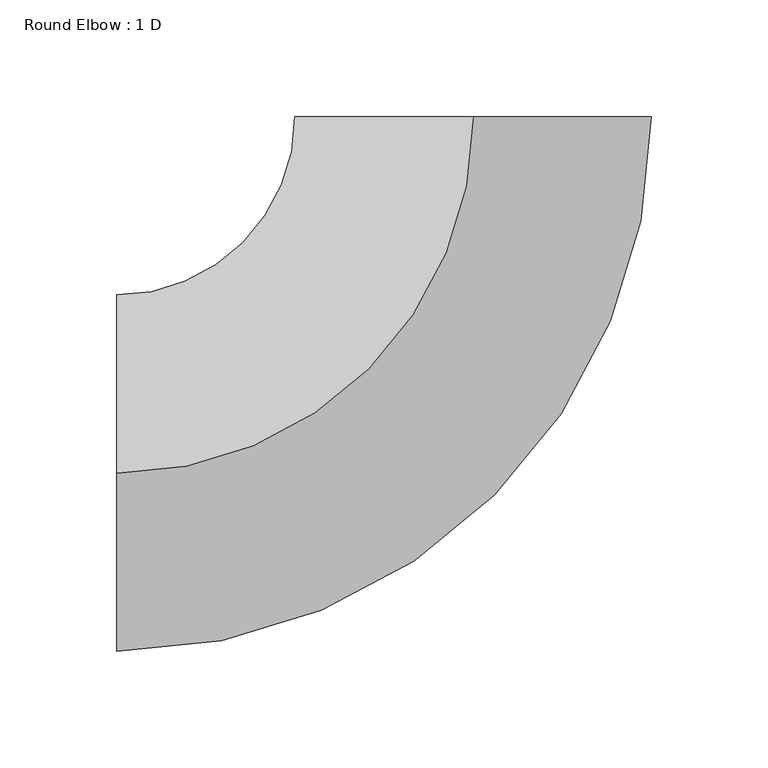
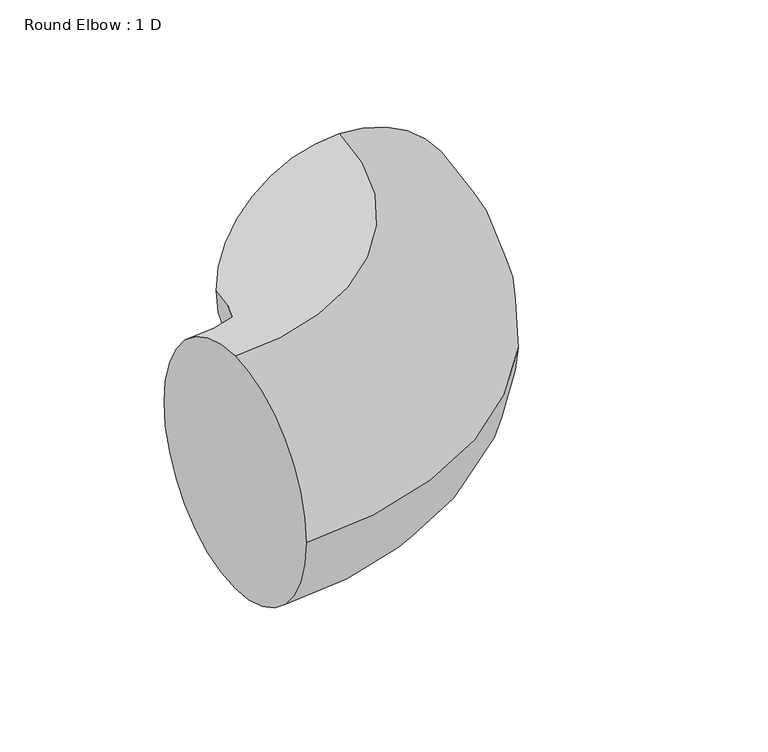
"""IFC4 building model written with IfcOpenShell, lengths in millimetres: duct fitting geometry, Round Elbow : 1 D."""

from ifc_helpers import new_model, si_unit, point, frame, origin, place, context, project, spatial, circle_curve, ellipse_curve, trimmed, source, transform, mapped, element, save
from ifc_brep_helpers import plane_surface, revolved_surface, advanced_brep


def round_elbow_1_d_8429d56c(model_context):
    return source(origin(), model_context, "Body", "AdvancedBrep", [
        advanced_brep(
        [(-152.4001896, 0.0, 76.2), (-152.4001896, 76.2, 0.0), (-152.4001896, 0.0, -76.2), (-152.4001896, -76.2, 0.0), (-0.0001896, 152.4001896, 76.2), (76.1998104, 152.4002844, 0.0), (-0.0001896, 152.4001896, -76.2), (-76.2001896, 152.4000948, 0.0)],
        [
            (0, 1, circle_curve(frame((-152.4001896, 0.0, 0.0), z_axis=(-1.0, 0.0, 0.0), x_axis=(0.0, 1.0, 0.0)), 76.2)),
            (1, 2, circle_curve(frame((-152.4001896, 0.0, 0.0), z_axis=(-1.0, 0.0, 0.0), x_axis=(0.0, 1.0, 0.0)), 76.2)),
            (2, 3, circle_curve(frame((-152.4001896, 0.0, 0.0), z_axis=(-1.0, 0.0, 0.0), x_axis=(0.0, 1.0, 0.0)), 76.2)),
            (3, 0, circle_curve(frame((-152.4001896, 0.0, 0.0), z_axis=(-1.0, 0.0, 0.0), x_axis=(0.0, 1.0, 0.0)), 76.2)),
            (4, 5, circle_curve(frame((-0.0001896, 152.4001896, 0.0), z_axis=(-1.2442226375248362e-06, 0.999999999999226, 0.0), x_axis=(-0.999999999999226, -1.2442226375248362e-06, 0.0)), 76.2)),
            (5, 6, circle_curve(frame((-0.0001896, 152.4001896, 0.0), z_axis=(-1.2442226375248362e-06, 0.999999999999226, 0.0), x_axis=(-0.999999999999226, -1.2442226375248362e-06, 0.0)), 76.2)),
            (6, 7, circle_curve(frame((-0.0001896, 152.4001896, 0.0), z_axis=(-1.2442226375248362e-06, 0.999999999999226, 0.0), x_axis=(-0.999999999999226, -1.2442226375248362e-06, 0.0)), 76.2)),
            (7, 4, circle_curve(frame((-0.0001896, 152.4001896, 0.0), z_axis=(-1.2442226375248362e-06, 0.999999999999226, 0.0), x_axis=(-0.999999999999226, -1.2442226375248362e-06, 0.0)), 76.2)),
            (7, 1, circle_curve(frame((-152.4001896, 152.4, 0.0), z_axis=(0.0, 0.0, -1.0), x_axis=(0.0, -1.0, 0.0)), 76.2)),
            (0, 4, circle_curve(frame((-152.4001896, 152.4, 76.2), z_axis=(0.0, 0.0, 1.0), x_axis=(0.0, -1.0, 0.0)), 152.4)),
            (6, 2, circle_curve(frame((-152.4001896, 152.4, -76.2), z_axis=(0.0, 0.0, -1.0), x_axis=(0.0, -1.0, 0.0)), 152.4)),
            (5, 3, circle_curve(frame((-152.4001896, 152.4, 0.0), z_axis=(0.0, 0.0, -1.0), x_axis=(0.0, -1.0, 0.0)), 228.6)),
        ],
        [
            plane_surface(frame((-152.4001896, 0.0, 0.0), z_axis=(-1.0, 0.0, 0.0), x_axis=(0.0, 0.0, 1.0))),
            plane_surface(frame((-0.0001896, 152.4001896, 0.0), z_axis=(-1.2442226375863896e-06, 0.999999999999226, 0.0), x_axis=(0.0, 0.0, 1.0))),
            revolved_surface(trimmed(ellipse_curve(frame((-152.4001896, 0.0, 0.0), z_axis=(-1.0, 0.0, 0.0), x_axis=(0.0, 1.0, 0.0)), 76.2, 76.2), [point((-152.4001896, 0.0, 76.2))], [point((-152.4001896, 76.2, 0.0))], True, "CARTESIAN"), (-152.4001896, 152.4, 0.0), (0.0, 0.0, 1.0)),
            revolved_surface(trimmed(ellipse_curve(frame((-152.4001896, 0.0, 0.0), z_axis=(-1.0, 0.0, 0.0), x_axis=(0.0, 1.0, 0.0)), 76.2, 76.2), [point((-152.4001896, 76.2, 0.0))], [point((-152.4001896, 0.0, -76.2))], True, "CARTESIAN"), (-152.4001896, 152.4, 0.0), (0.0, 0.0, 1.0)),
            revolved_surface(trimmed(ellipse_curve(frame((-152.4001896, 0.0, 0.0), z_axis=(-1.0, 0.0, 0.0), x_axis=(0.0, 1.0, 0.0)), 76.2, 76.2), [point((-152.4001896, 0.0, -76.2))], [point((-152.4001896, -76.2, 0.0))], True, "CARTESIAN"), (-152.4001896, 152.4, 0.0), (0.0, 0.0, 1.0)),
            revolved_surface(trimmed(ellipse_curve(frame((-152.4001896, 0.0, 0.0), z_axis=(-1.0, 0.0, 0.0), x_axis=(0.0, 1.0, 0.0)), 76.2, 76.2), [point((-152.4001896, -76.2, 0.0))], [point((-152.4001896, 0.0, 76.2))], True, "CARTESIAN"), (-152.4001896, 152.4, 0.0), (0.0, 0.0, 1.0)),
        ],
        [
            (0, [[1, 2, 3, 4]]),
            (1, [[5, 6, 7, 8]]),
            (2, [[9, -1, 10, -8]]),
            (3, [[11, -2, -9, -7]]),
            (4, [[12, -3, -11, -6]]),
            (5, [[-10, -4, -12, -5]]),
        ],
    ),
    ])


if __name__ == "__main__":
    model = new_model("IFC4")
    model_context = context("Model", 3, world=origin())
    ifc_project = project(units=[si_unit("LENGTHUNIT", "METRE", prefix="MILLI")], contexts=[model_context])
    site = spatial("IfcSite", under=ifc_project)
    building = spatial("IfcBuilding", under=site)
    placement = place(None, origin())
    round_elbow_1_d_shape = round_elbow_1_d_8429d56c(model_context)
    element("IfcDuctFitting", 1, ObjectType="Round Elbow : 1 D", at=placement, inside=building, context=model_context, shape_type="MappedRepresentation", body=[
        mapped(round_elbow_1_d_shape, transform((0.0, 0.0, 0.0), x_axis=(1.0, 0.0, 0.0), y_axis=(0.0, 1.0, 0.0), z_axis=(0.0, 0.0, 1.0))),
    ])
    save(model, "model.ifc")
